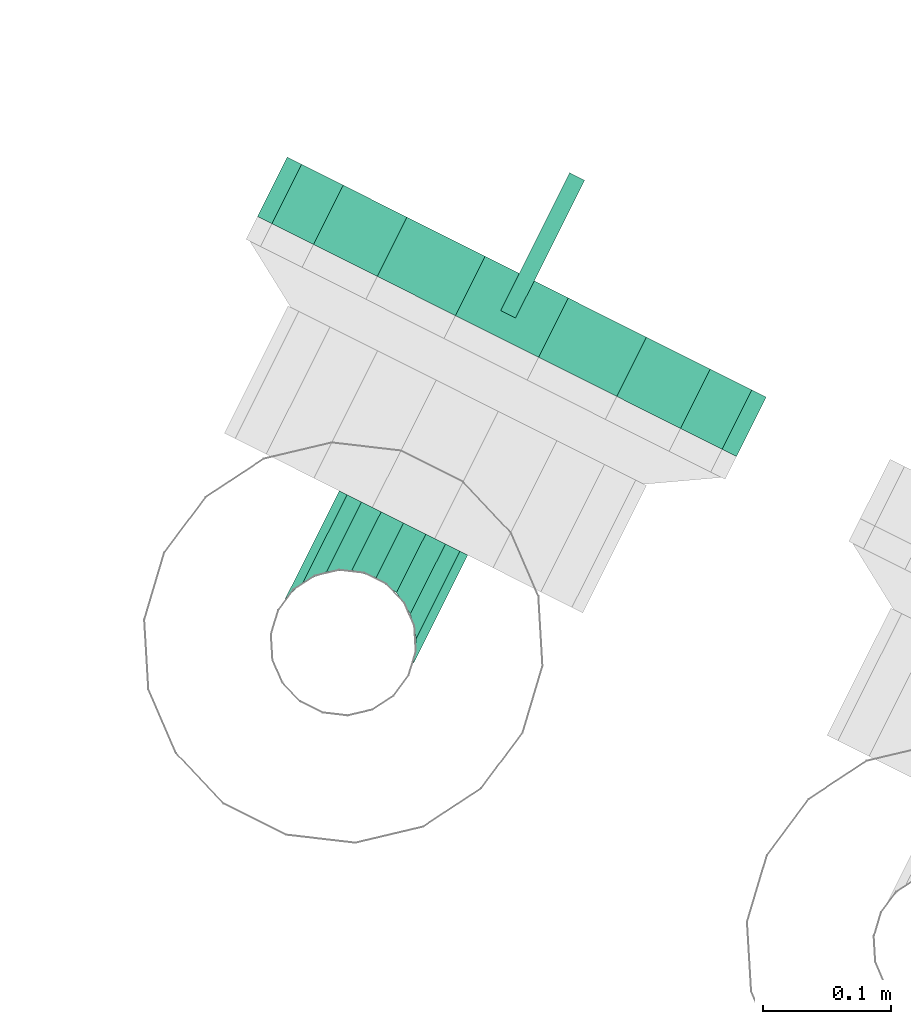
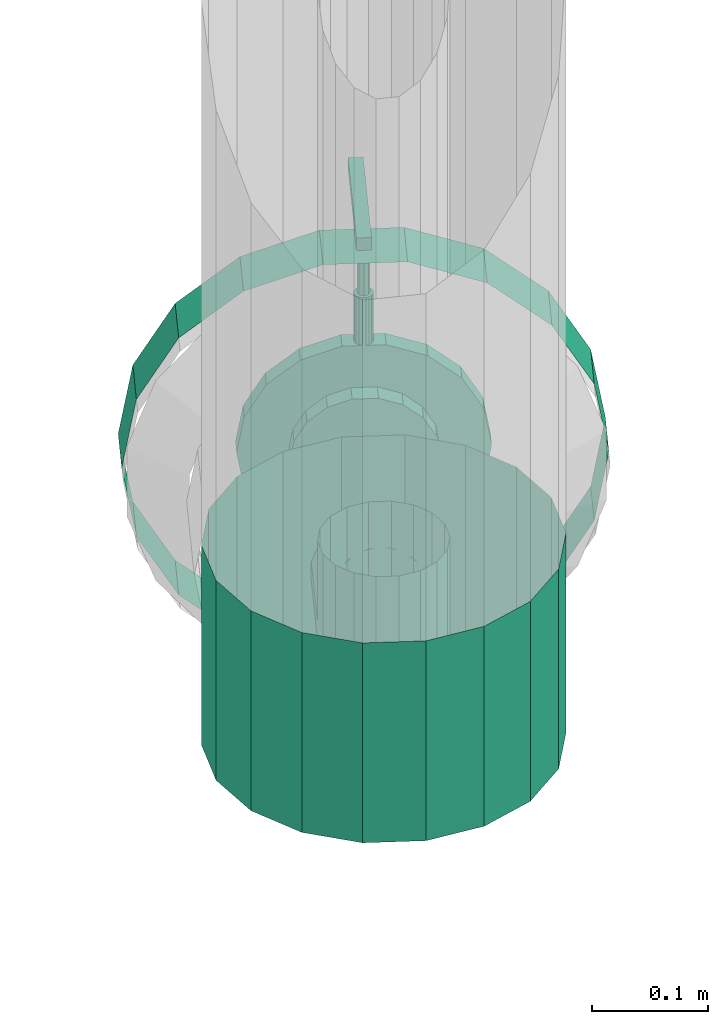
# One storey, part 38 of 206: 1 flow controller, 1 flow fitting.
"""IFC2X3 building model written with IfcOpenShell, lengths in metres."""

from ifc_helpers import new_model, si_unit, derived_unit, direction, frame, origin, place, context, subcontext, project, spatial, face_set, surface_model, source, transform, mapped, material, type_object, type_shapes, element, save


model = new_model("IFC2X3")

# Units and contexts
model_context = context("Model", 3, precision=5.2338327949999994e-05, world=origin(), true_north=direction((0.0, 1.0)))
body_context = subcontext(model_context, "Body", "Model", "MODEL_VIEW")
ifc_project = project(units=[si_unit("LENGTHUNIT", "METRE"), si_unit("AREAUNIT", "SQUARE_METRE"), si_unit("VOLUMEUNIT", "CUBIC_METRE"), si_unit("MASSUNIT", "GRAM", prefix="KILO"), si_unit("PLANEANGLEUNIT", "RADIAN"), derived_unit("THERMALTRANSMITTANCEUNIT", [(si_unit("MASSUNIT", "GRAM", prefix="KILO"), 1), (si_unit("THERMODYNAMICTEMPERATUREUNIT", "KELVIN"), -1), (si_unit("TIMEUNIT", "SECOND"), -3)])], contexts=[model_context])

# Site, building, storey
site_placement = place(None, frame((0.0, 0.0, 0.0), z_axis=(0.0, 0.0, 1.0), x_axis=(0.8939966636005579, -0.4480736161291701, 0.0)))
site = spatial("IfcSite", under=ifc_project, at=site_placement, Name="Default", CompositionType="ELEMENT")
building_placement = place(site_placement, origin())
building = spatial("IfcBuilding", under=site, at=building_placement, CompositionType="ELEMENT")
storey_placement = place(building_placement, origin())
storey = spatial("IfcBuildingStorey", under=building, at=storey_placement, Name="Erdgeschoss", CompositionType="ELEMENT", Elevation=0.0)

# Flow fitting
ifc_material = material(Name="IfcSurfaceStyle #9317")
distribution_element_type_1 = type_object("IfcDistributionElementType", Name="Abzweigstück 327061:Abzweigstück 327061", material=ifc_material)
shared_shape_1 = source(origin(), body_context, "Body", "SurfaceModel", [
    surface_model("IfcFaceBasedSurfaceModel", [(25.038549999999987, 0.612299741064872, 0.9494106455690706), (25.041996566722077, 0.5927532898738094, 0.9494106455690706), (25.041996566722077, 0.5927532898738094, 1.1594106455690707), (25.038549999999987, 0.6122997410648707, 1.1594106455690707), (25.051920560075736, 0.5755644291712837, 0.9494106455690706), (25.051920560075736, 0.5755644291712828, 1.1594106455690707), (25.067124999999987, 0.5628063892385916, 0.9494106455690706), (25.067124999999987, 0.5628063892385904, 1.1594106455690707), (25.085776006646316, 0.5560179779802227, 0.9494106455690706), (25.08577600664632, 0.5560179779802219, 1.1594106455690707), (25.105623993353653, 0.5560179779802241, 0.9494106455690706), (25.105623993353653, 0.5560179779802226, 1.1594106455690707), (25.12427499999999, 0.5628063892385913, 0.9494106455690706), (25.124274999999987, 0.5628063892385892, 1.1594106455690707), (25.139479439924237, 0.5755644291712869, 0.9494106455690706), (25.13947943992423, 0.5755644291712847, 1.1594106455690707), (25.1494034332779, 0.5927532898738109, 0.9494106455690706), (25.1494034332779, 0.5927532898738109, 1.1594106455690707), (25.152849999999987, 0.6122997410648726, 0.9494106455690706), (25.152849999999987, 0.6122997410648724, 1.1594106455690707), (25.1494034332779, 0.631846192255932, 0.9494106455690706), (25.1494034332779, 0.6318461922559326, 1.1594106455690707), (25.13947943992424, 0.6490350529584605, 0.9494106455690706), (25.13947943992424, 0.6490350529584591, 1.1594106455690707), (25.12427499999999, 0.6617930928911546, 0.9494106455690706), (25.124274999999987, 0.6617930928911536, 1.1594106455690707), (25.105623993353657, 0.6685815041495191, 0.9494106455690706), (25.105623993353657, 0.6685815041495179, 1.1594106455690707), (25.08577600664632, 0.6685815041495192, 0.9494106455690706), (25.085776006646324, 0.668581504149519, 1.1594106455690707), (25.06712499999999, 0.6617930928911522, 0.9494106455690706), (25.06712499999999, 0.661793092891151, 1.1594106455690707), (25.051920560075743, 0.6490350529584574, 0.9494106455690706), (25.051920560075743, 0.6490350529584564, 1.1594106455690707), (25.041996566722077, 0.631846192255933, 0.9494106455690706), (25.04199656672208, 0.6318461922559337, 1.1594106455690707), (25.09569999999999, 0.6694497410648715, 1.1115606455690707), (25.11524645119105, 0.6660031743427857, 1.1081140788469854), (25.11524645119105, 0.7172997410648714, 1.1081140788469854), (25.09569999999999, 0.7172997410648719, 1.1115606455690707), (25.132435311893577, 0.65607918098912, 1.0981900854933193), (25.13243531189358, 0.7172997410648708, 1.098190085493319), (25.14519335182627, 0.6408747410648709, 1.0829856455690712), (25.145193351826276, 0.7172997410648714, 1.0829856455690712), (25.151981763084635, 0.6222237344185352, 1.064334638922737), (25.151981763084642, 0.7172997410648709, 1.064334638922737), (25.15198176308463, 0.6222237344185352, 1.0444866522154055), (25.151981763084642, 0.7172997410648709, 1.0444866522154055), (25.14519335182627, 0.6408747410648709, 1.0258356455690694), (25.145193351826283, 0.7172997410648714, 1.0258356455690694), (25.132435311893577, 0.6560791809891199, 1.0106312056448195), (25.13243531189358, 0.7172997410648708, 1.0106312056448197), (25.11524645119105, 0.6660031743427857, 1.0007072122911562), (25.11524645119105, 0.7172997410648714, 1.0007072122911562), (25.09569999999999, 0.6694497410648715, 0.9972606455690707), (25.09569999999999, 0.7172997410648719, 0.9972606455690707), (25.07615354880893, 0.6660031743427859, 1.0007072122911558), (25.076153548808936, 0.7172997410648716, 1.0007072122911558), (25.058964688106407, 0.6560791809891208, 1.010631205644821), (25.058964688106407, 0.7172997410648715, 1.010631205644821), (25.046206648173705, 0.6408747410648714, 1.0258356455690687), (25.04620664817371, 0.7172997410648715, 1.025835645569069), (25.039418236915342, 0.6222237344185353, 1.0444866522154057), (25.039418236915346, 0.7172997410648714, 1.0444866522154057), (25.039418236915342, 0.6222237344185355, 1.0643346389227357), (25.039418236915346, 0.7172997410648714, 1.0643346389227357), (25.046206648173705, 0.6408747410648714, 1.0829856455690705), (25.04620664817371, 0.7172997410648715, 1.0829856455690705), (25.058964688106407, 0.6560791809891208, 1.0981900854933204), (25.058964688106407, 0.7172997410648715, 1.0981900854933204), (25.07615354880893, 0.6660031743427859, 1.1081140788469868), (25.076153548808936, 0.7172997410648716, 1.1081140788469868), (24.93854999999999, 0.6122997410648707, 0.9494106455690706), (24.94802730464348, 0.5585512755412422, 0.9494106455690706), (24.94802730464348, 0.5585512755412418, 1.1594106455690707), (24.93854999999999, 0.6122997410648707, 1.1594106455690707), (24.975316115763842, 0.5112856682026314, 0.9494106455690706), (24.97531611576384, 0.5112856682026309, 1.1594106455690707), (25.017124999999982, 0.4762038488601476, 0.9494106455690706), (25.017124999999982, 0.4762038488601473, 1.1594106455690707), (25.06841118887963, 0.45753720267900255, 0.9494106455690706), (25.06841118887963, 0.45753720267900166, 1.1594106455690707), (25.122988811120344, 0.4575372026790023, 0.9494106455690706), (25.12298881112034, 0.45753720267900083, 1.1594106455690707), (25.174274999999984, 0.47620384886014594, 0.9494106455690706), (25.174274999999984, 0.47620384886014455, 1.1594106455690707), (25.216083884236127, 0.5112856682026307, 0.9494106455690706), (25.216083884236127, 0.5112856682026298, 1.1594106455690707), (25.243372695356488, 0.5585512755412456, 0.9494106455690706), (25.243372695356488, 0.5585512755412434, 1.1594106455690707), (25.25284999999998, 0.6122997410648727, 0.9494106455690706), (25.25284999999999, 0.6122997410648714, 1.1594106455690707), (25.243372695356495, 0.6660482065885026, 0.9494106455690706), (25.2433726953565, 0.6660482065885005, 1.1594106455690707), (25.216083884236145, 0.7133138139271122, 0.9494106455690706), (25.216083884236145, 0.7133138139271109, 1.1594106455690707), (25.174274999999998, 0.7483956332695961, 0.9494106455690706), (25.174274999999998, 0.7483956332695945, 1.1594106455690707), (25.122988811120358, 0.7670622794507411, 0.9494106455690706), (25.122988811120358, 0.7670622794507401, 1.1594106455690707), (25.068411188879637, 0.7670622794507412, 0.9494106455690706), (25.068411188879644, 0.7670622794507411, 1.1594106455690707), (25.017124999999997, 0.7483956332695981, 0.9494106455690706), (25.017124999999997, 0.7483956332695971, 1.1594106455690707), (24.97531611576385, 0.7133138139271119, 0.9494106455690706), (24.975316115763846, 0.7133138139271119, 1.1594106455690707), (24.94802730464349, 0.6660482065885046, 0.9494106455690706), (24.94802730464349, 0.6660482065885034, 1.1594106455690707)], [face_set([[[0, 1, 2, 3]], [[1, 4, 5, 2]], [[4, 6, 7, 5]], [[6, 8, 9, 7]], [[8, 10, 11, 9]], [[10, 12, 13, 11]], [[12, 14, 15, 13]], [[14, 16, 17, 15]], [[16, 18, 19, 17]], [[18, 20, 21, 19]], [[20, 22, 23, 21]], [[22, 24, 25, 23]], [[24, 26, 27, 25]], [[26, 28, 29, 27]], [[28, 30, 31, 29]], [[30, 32, 33, 31]], [[32, 34, 35, 33]], [[34, 0, 3, 35]], [[36, 37, 38, 39]], [[37, 40, 41, 38]], [[40, 42, 43, 41]], [[42, 44, 45, 43]], [[44, 46, 47, 45]], [[46, 48, 49, 47]], [[48, 50, 51, 49]], [[50, 52, 53, 51]], [[52, 54, 55, 53]], [[54, 56, 57, 55]], [[56, 58, 59, 57]], [[58, 60, 61, 59]], [[60, 62, 63, 61]], [[62, 64, 65, 63]], [[64, 66, 67, 65]], [[66, 68, 69, 67]], [[68, 70, 71, 69]], [[70, 36, 39, 71]], [[72, 73, 74, 75]], [[73, 76, 77, 74]], [[76, 78, 79, 77]], [[78, 80, 81, 79]], [[80, 82, 83, 81]], [[82, 84, 85, 83]], [[84, 86, 87, 85]], [[86, 88, 89, 87]], [[88, 90, 91, 89]], [[90, 92, 93, 91]], [[92, 94, 95, 93]], [[94, 96, 97, 95]], [[96, 98, 99, 97]], [[98, 100, 101, 99]], [[100, 102, 103, 101]], [[102, 104, 105, 103]], [[104, 106, 107, 105]], [[106, 72, 75, 107]]])]),
])
type_shapes(distribution_element_type_1, [shared_shape_1])
flow_fitting_placement = place(storey_placement, origin())
element("IfcFlowFitting", 1, at=flow_fitting_placement, inside=storey, type_object=distribution_element_type_1, material=ifc_material, Name="Abzweigstück", ObjectType="Abzweigstück", context=body_context, shape_type="MappedRepresentation", body=[
    mapped(shared_shape_1, transform((0.0, 0.0, 0.0), scale=1.0)),
])

# Flow controller
distribution_element_type_2 = type_object("IfcDistributionElementType", Name="Zwischenflanschklappe 351404:Zwischenflanschklappe 351404", material=ifc_material)
shared_shape_2 = source(origin(), body_context, "Body", "SurfaceModel", [
    surface_model("IfcFaceBasedSurfaceModel", [(25.10224999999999, 1.0211727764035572, 1.2613106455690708), (25.10224999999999, 0.9003227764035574, 1.2613106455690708), (25.08914999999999, 0.9003227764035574, 1.2613106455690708), (25.08914999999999, 1.0211727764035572, 1.2613106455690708), (25.08914999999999, 0.9003227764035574, 1.2744106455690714), (25.08914999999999, 1.0211727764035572, 1.2744106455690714), (25.10224999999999, 0.9003227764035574, 1.2744106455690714), (25.10224999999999, 1.0211727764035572, 1.2744106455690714), (25.03019999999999, 0.932872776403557, 1.0544106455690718), (25.03415013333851, 0.932872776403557, 1.0320083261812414), (25.03415013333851, 0.9155394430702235, 1.0320083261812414), (25.03019999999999, 0.9155394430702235, 1.0544106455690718), (25.045524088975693, 0.932872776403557, 1.0123080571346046), (25.045524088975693, 0.9155394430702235, 1.0123080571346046), (25.06294999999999, 0.932872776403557, 0.9976859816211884), (25.06294999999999, 0.9155394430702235, 0.9976859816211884), (25.084326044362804, 0.932872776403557, 0.9899057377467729), (25.084326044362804, 0.9155394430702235, 0.9899057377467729), (25.107073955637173, 0.932872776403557, 0.9899057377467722), (25.107073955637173, 0.9155394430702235, 0.9899057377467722), (25.128449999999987, 0.932872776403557, 0.9976859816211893), (25.128449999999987, 0.9155394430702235, 0.9976859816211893), (25.145875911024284, 0.932872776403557, 1.0123080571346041), (25.145875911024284, 0.9155394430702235, 1.0123080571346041), (25.157249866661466, 0.932872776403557, 1.032008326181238), (25.157249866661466, 0.9155394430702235, 1.032008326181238), (25.16119999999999, 0.932872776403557, 1.0544106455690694), (25.16119999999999, 0.9155394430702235, 1.0544106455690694), (25.157249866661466, 0.932872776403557, 1.0768129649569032), (25.157249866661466, 0.9155394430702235, 1.0768129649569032), (25.145875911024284, 0.932872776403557, 1.096513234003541), (25.145875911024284, 0.9155394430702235, 1.096513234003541), (25.128449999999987, 0.932872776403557, 1.1111353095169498), (25.128449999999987, 0.9155394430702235, 1.1111353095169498), (25.107073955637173, 0.932872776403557, 1.1189155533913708), (25.107073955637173, 0.9155394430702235, 1.1189155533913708), (25.084326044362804, 0.932872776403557, 1.1189155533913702), (25.084326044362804, 0.9155394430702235, 1.1189155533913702), (25.06294999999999, 0.932872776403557, 1.1111353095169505), (25.06294999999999, 0.9155394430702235, 1.1111353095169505), (25.045524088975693, 0.932872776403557, 1.0965132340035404), (25.045524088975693, 0.9155394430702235, 1.0965132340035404), (25.03415013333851, 0.932872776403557, 1.0768129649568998), (25.03415013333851, 0.9155394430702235, 1.0768129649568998), (25.095699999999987, 0.9328727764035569, 1.0544106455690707), (25.095699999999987, 0.9155394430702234, 1.0544106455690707), (24.98569999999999, 0.9155394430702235, 1.0544106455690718), (24.99233381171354, 0.9155394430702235, 1.0167884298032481), (24.99233381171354, 0.8982061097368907, 1.0167884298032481), (24.98569999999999, 0.8982061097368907, 1.0544106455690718), (25.0114351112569, 0.9155394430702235, 0.9837040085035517), (25.0114351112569, 0.8982061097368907, 0.9837040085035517), (25.04069999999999, 0.9155394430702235, 0.9591478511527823), (25.04069999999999, 0.8982061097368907, 0.9591478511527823), (25.07659870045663, 0.9155394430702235, 0.9460817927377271), (25.07659870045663, 0.8982061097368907, 0.9460817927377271), (25.11480129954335, 0.9155394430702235, 0.946081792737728), (25.11480129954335, 0.8982061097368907, 0.946081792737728), (25.150699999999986, 0.9155394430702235, 0.959147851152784), (25.150699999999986, 0.8982061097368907, 0.959147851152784), (25.179964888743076, 0.9155394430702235, 0.9837040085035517), (25.179964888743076, 0.8982061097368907, 0.9837040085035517), (25.199066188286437, 0.9155394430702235, 1.016788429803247), (25.199066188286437, 0.8982061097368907, 1.016788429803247), (25.205699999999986, 0.9155394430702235, 1.0544106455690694), (25.205699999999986, 0.8982061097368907, 1.0544106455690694), (25.199066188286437, 0.9155394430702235, 1.0920328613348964), (25.199066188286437, 0.8982061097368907, 1.0920328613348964), (25.179964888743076, 0.9155394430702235, 1.1251172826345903), (25.179964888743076, 0.8982061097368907, 1.1251172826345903), (25.150699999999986, 0.9155394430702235, 1.14967343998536), (25.150699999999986, 0.8982061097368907, 1.14967343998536), (25.11480129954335, 0.9155394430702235, 1.1627394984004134), (25.11480129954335, 0.8982061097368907, 1.1627394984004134), (25.07659870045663, 0.9155394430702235, 1.1627394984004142), (25.07659870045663, 0.8982061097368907, 1.1627394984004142), (25.04069999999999, 0.9155394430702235, 1.1496734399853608), (25.04069999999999, 0.8982061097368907, 1.1496734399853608), (25.0114351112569, 0.9155394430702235, 1.1251172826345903), (25.0114351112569, 0.8982061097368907, 1.1251172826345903), (24.99233381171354, 0.9155394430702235, 1.092032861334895), (24.99233381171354, 0.8982061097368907, 1.092032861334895), (25.095699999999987, 0.8982061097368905, 1.0544106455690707), (25.03019999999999, 0.8982061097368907, 1.0544106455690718), (25.03415013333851, 0.8982061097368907, 1.0320083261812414), (25.03415013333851, 0.8808727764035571, 1.0320083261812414), (25.03019999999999, 0.8808727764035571, 1.0544106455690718), (25.045524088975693, 0.8982061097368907, 1.0123080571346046), (25.045524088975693, 0.8808727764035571, 1.0123080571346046), (25.06294999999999, 0.8982061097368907, 0.9976859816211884), (25.06294999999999, 0.8808727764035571, 0.9976859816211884), (25.084326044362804, 0.8982061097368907, 0.9899057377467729), (25.084326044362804, 0.8808727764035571, 0.9899057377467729), (25.107073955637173, 0.8982061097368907, 0.9899057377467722), (25.107073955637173, 0.8808727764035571, 0.9899057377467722), (25.128449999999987, 0.8982061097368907, 0.9976859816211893), (25.128449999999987, 0.8808727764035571, 0.9976859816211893), (25.145875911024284, 0.8982061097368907, 1.0123080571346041), (25.145875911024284, 0.8808727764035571, 1.0123080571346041), (25.157249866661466, 0.8982061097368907, 1.032008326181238), (25.157249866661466, 0.8808727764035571, 1.032008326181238), (25.16119999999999, 0.8982061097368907, 1.0544106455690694), (25.16119999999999, 0.8808727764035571, 1.0544106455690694), (25.157249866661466, 0.8982061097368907, 1.0768129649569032), (25.157249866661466, 0.8808727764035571, 1.0768129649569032), (25.145875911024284, 0.8982061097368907, 1.096513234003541), (25.145875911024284, 0.8808727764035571, 1.096513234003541), (25.128449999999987, 0.8982061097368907, 1.1111353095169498), (25.128449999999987, 0.8808727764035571, 1.1111353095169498), (25.107073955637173, 0.8982061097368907, 1.1189155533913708), (25.107073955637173, 0.8808727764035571, 1.1189155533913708), (25.084326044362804, 0.8982061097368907, 1.1189155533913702), (25.084326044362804, 0.8808727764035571, 1.1189155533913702), (25.06294999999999, 0.8982061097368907, 1.1111353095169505), (25.06294999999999, 0.8808727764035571, 1.1111353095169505), (25.045524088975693, 0.8982061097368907, 1.0965132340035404), (25.045524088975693, 0.8808727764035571, 1.0965132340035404), (25.03415013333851, 0.8982061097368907, 1.0768129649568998), (25.03415013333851, 0.8808727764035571, 1.0768129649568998), (25.095699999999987, 0.880872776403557, 1.0544106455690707), (25.087033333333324, 0.9068727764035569, 1.0544106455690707), (25.08755599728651, 0.9039086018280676, 1.0544106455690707), (25.08755599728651, 0.9039086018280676, 1.212860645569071), (25.087033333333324, 0.9068727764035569, 1.212860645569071), (25.089060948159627, 0.90130195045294, 1.0544106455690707), (25.089060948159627, 0.90130195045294, 1.212860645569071), (25.09136666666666, 0.8993672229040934, 1.0544106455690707), (25.09136666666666, 0.8993672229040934, 1.212860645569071), (25.094195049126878, 0.8983377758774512, 1.0544106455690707), (25.094195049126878, 0.8983377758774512, 1.212860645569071), (25.097204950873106, 0.8983377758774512, 1.0544106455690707), (25.097204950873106, 0.8983377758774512, 1.212860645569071), (25.100033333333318, 0.8993672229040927, 1.0544106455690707), (25.100033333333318, 0.8993672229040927, 1.212860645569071), (25.10233905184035, 0.9013019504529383, 1.0544106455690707), (25.10233905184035, 0.9013019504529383, 1.212860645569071), (25.103844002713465, 0.9039086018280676, 1.0544106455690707), (25.103844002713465, 0.9039086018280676, 1.212860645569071), (25.104366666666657, 0.9068727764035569, 1.0544106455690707), (25.104366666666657, 0.9068727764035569, 1.212860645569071), (25.103844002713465, 0.9098369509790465, 1.0544106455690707), (25.103844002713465, 0.9098369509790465, 1.212860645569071), (25.10233905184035, 0.9124436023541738, 1.0544106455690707), (25.10233905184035, 0.9124436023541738, 1.212860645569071), (25.100033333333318, 0.914378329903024, 1.0544106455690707), (25.100033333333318, 0.914378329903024, 1.212860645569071), (25.097204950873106, 0.915407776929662, 1.0544106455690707), (25.097204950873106, 0.915407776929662, 1.212860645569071), (25.094195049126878, 0.9154077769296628, 1.0544106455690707), (25.094195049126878, 0.9154077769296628, 1.212860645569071), (25.09136666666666, 0.9143783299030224, 1.0544106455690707), (25.09136666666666, 0.9143783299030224, 1.212860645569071), (25.089060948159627, 0.9124436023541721, 1.0544106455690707), (25.089060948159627, 0.9124436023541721, 1.212860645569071), (25.08755599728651, 0.9098369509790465, 1.0544106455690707), (25.08755599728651, 0.9098369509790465, 1.212860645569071), (25.095699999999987, 0.9068727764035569, 1.0544106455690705), (25.095699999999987, 0.9068727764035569, 1.212860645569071), (25.08998499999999, 0.9068727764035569, 1.212860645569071), (25.09165888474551, 0.9028316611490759, 1.212860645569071), (25.09165888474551, 0.9028316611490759, 1.2613106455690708), (25.08998499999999, 0.9068727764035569, 1.2613106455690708), (25.095699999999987, 0.901157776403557, 1.212860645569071), (25.095699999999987, 0.901157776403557, 1.2613106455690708), (25.09974111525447, 0.9028316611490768, 1.212860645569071), (25.09974111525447, 0.9028316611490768, 1.2613106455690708), (25.101414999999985, 0.9068727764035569, 1.212860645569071), (25.101414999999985, 0.9068727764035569, 1.2613106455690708), (25.09974111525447, 0.9109138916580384, 1.212860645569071), (25.09974111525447, 0.9109138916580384, 1.2613106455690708), (25.095699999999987, 0.9125877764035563, 1.212860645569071), (25.095699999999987, 0.9125877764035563, 1.2613106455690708), (25.09165888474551, 0.9109138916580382, 1.212860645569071), (25.09165888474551, 0.9109138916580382, 1.2613106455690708), (25.095699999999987, 0.9068727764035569, 1.2613106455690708), (24.885699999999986, 0.932872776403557, 1.0544106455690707), (24.898364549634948, 0.932872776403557, 0.9825864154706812), (24.898364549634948, 0.8808727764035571, 0.9825864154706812), (24.885699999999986, 0.8808727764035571, 1.0544106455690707), (24.934830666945, 0.932872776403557, 0.9194252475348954), (24.934830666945, 0.8808727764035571, 0.9194252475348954), (24.99069999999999, 0.932872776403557, 0.8725453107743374), (24.99069999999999, 0.8808727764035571, 0.8725453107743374), (25.059233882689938, 0.932872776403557, 0.8476010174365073), (25.059233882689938, 0.8808727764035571, 0.8476010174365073), (25.132166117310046, 0.932872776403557, 0.8476010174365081), (25.132166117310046, 0.8808727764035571, 0.8476010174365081), (25.20069999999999, 0.932872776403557, 0.872545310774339), (25.20069999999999, 0.8808727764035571, 0.872545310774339), (25.256569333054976, 0.932872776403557, 0.9194252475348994), (25.256569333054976, 0.8808727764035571, 0.9194252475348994), (25.29303545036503, 0.932872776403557, 0.9825864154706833), (25.29303545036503, 0.8808727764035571, 0.9825864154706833), (25.30569999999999, 0.932872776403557, 1.0544106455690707), (25.30569999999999, 0.8808727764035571, 1.0544106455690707), (25.29303545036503, 0.932872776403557, 1.1262348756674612), (25.29303545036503, 0.8808727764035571, 1.1262348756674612), (25.256569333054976, 0.932872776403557, 1.1893960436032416), (25.256569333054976, 0.8808727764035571, 1.1893960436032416), (25.20069999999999, 0.932872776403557, 1.2362759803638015), (25.20069999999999, 0.8808727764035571, 1.2362759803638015), (25.132166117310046, 0.932872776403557, 1.2612202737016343), (25.132166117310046, 0.8808727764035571, 1.2612202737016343), (25.059233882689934, 0.932872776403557, 1.2612202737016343), (25.059233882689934, 0.8808727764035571, 1.2612202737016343), (24.99069999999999, 0.932872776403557, 1.236275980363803), (24.99069999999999, 0.8808727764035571, 1.236275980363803), (24.934830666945, 0.932872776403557, 1.1893960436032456), (24.934830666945, 0.8808727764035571, 1.1893960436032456), (24.898364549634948, 0.932872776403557, 1.1262348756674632), (24.898364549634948, 0.8808727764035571, 1.1262348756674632)], [face_set([[[0, 1, 2, 3]], [[3, 2, 4, 5]], [[5, 4, 6, 7]], [[7, 6, 1, 0]], [[0, 3, 5, 7]], [[6, 4, 2, 1]], [[8, 9, 10, 11]], [[9, 12, 13, 10]], [[12, 14, 15, 13]], [[14, 16, 17, 15]], [[16, 18, 19, 17]], [[18, 20, 21, 19]], [[20, 22, 23, 21]], [[22, 24, 25, 23]], [[24, 26, 27, 25]], [[26, 28, 29, 27]], [[28, 30, 31, 29]], [[30, 32, 33, 31]], [[32, 34, 35, 33]], [[34, 36, 37, 35]], [[36, 38, 39, 37]], [[38, 40, 41, 39]], [[40, 42, 43, 41]], [[42, 8, 11, 43]], [[44, 9, 8]], [[44, 12, 9]], [[44, 14, 12]], [[44, 16, 14]], [[44, 18, 16]], [[44, 20, 18]], [[44, 22, 20]], [[44, 24, 22]], [[44, 26, 24]], [[44, 28, 26]], [[44, 30, 28]], [[44, 32, 30]], [[44, 34, 32]], [[44, 36, 34]], [[44, 38, 36]], [[44, 40, 38]], [[44, 42, 40]], [[44, 8, 42]], [[45, 43, 11]], [[45, 41, 43]], [[45, 39, 41]], [[45, 37, 39]], [[45, 35, 37]], [[45, 33, 35]], [[45, 31, 33]], [[45, 29, 31]], [[45, 27, 29]], [[45, 25, 27]], [[45, 23, 25]], [[45, 21, 23]], [[45, 19, 21]], [[45, 17, 19]], [[45, 15, 17]], [[45, 13, 15]], [[45, 10, 13]], [[45, 11, 10]], [[46, 47, 48, 49]], [[47, 50, 51, 48]], [[50, 52, 53, 51]], [[52, 54, 55, 53]], [[54, 56, 57, 55]], [[56, 58, 59, 57]], [[58, 60, 61, 59]], [[60, 62, 63, 61]], [[62, 64, 65, 63]], [[64, 66, 67, 65]], [[66, 68, 69, 67]], [[68, 70, 71, 69]], [[70, 72, 73, 71]], [[72, 74, 75, 73]], [[74, 76, 77, 75]], [[76, 78, 79, 77]], [[78, 80, 81, 79]], [[80, 46, 49, 81]], [[45, 47, 46]], [[45, 50, 47]], [[45, 52, 50]], [[45, 54, 52]], [[45, 56, 54]], [[45, 58, 56]], [[45, 60, 58]], [[45, 62, 60]], [[45, 64, 62]], [[45, 66, 64]], [[45, 68, 66]], [[45, 70, 68]], [[45, 72, 70]], [[45, 74, 72]], [[45, 76, 74]], [[45, 78, 76]], [[45, 80, 78]], [[45, 46, 80]], [[82, 81, 49]], [[82, 79, 81]], [[82, 77, 79]], [[82, 75, 77]], [[82, 73, 75]], [[82, 71, 73]], [[82, 69, 71]], [[82, 67, 69]], [[82, 65, 67]], [[82, 63, 65]], [[82, 61, 63]], [[82, 59, 61]], [[82, 57, 59]], [[82, 55, 57]], [[82, 53, 55]], [[82, 51, 53]], [[82, 48, 51]], [[82, 49, 48]], [[83, 84, 85, 86]], [[84, 87, 88, 85]], [[87, 89, 90, 88]], [[89, 91, 92, 90]], [[91, 93, 94, 92]], [[93, 95, 96, 94]], [[95, 97, 98, 96]], [[97, 99, 100, 98]], [[99, 101, 102, 100]], [[101, 103, 104, 102]], [[103, 105, 106, 104]], [[105, 107, 108, 106]], [[107, 109, 110, 108]], [[109, 111, 112, 110]], [[111, 113, 114, 112]], [[113, 115, 116, 114]], [[115, 117, 118, 116]], [[117, 83, 86, 118]], [[82, 84, 83]], [[82, 87, 84]], [[82, 89, 87]], [[82, 91, 89]], [[82, 93, 91]], [[82, 95, 93]], [[82, 97, 95]], [[82, 99, 97]], [[82, 101, 99]], [[82, 103, 101]], [[82, 105, 103]], [[82, 107, 105]], [[82, 109, 107]], [[82, 111, 109]], [[82, 113, 111]], [[82, 115, 113]], [[82, 117, 115]], [[82, 83, 117]], [[119, 118, 86]], [[119, 116, 118]], [[119, 114, 116]], [[119, 112, 114]], [[119, 110, 112]], [[119, 108, 110]], [[119, 106, 108]], [[119, 104, 106]], [[119, 102, 104]], [[119, 100, 102]], [[119, 98, 100]], [[119, 96, 98]], [[119, 94, 96]], [[119, 92, 94]], [[119, 90, 92]], [[119, 88, 90]], [[119, 85, 88]], [[119, 86, 85]], [[120, 121, 122, 123]], [[121, 124, 125, 122]], [[124, 126, 127, 125]], [[126, 128, 129, 127]], [[128, 130, 131, 129]], [[130, 132, 133, 131]], [[132, 134, 135, 133]], [[134, 136, 137, 135]], [[136, 138, 139, 137]], [[138, 140, 141, 139]], [[140, 142, 143, 141]], [[142, 144, 145, 143]], [[144, 146, 147, 145]], [[146, 148, 149, 147]], [[148, 150, 151, 149]], [[150, 152, 153, 151]], [[152, 154, 155, 153]], [[154, 120, 123, 155]], [[156, 121, 120]], [[156, 124, 121]], [[156, 126, 124]], [[156, 128, 126]], [[156, 130, 128]], [[156, 132, 130]], [[156, 134, 132]], [[156, 136, 134]], [[156, 138, 136]], [[156, 140, 138]], [[156, 142, 140]], [[156, 144, 142]], [[156, 146, 144]], [[156, 148, 146]], [[156, 150, 148]], [[156, 152, 150]], [[156, 154, 152]], [[156, 120, 154]], [[157, 155, 123]], [[157, 153, 155]], [[157, 151, 153]], [[157, 149, 151]], [[157, 147, 149]], [[157, 145, 147]], [[157, 143, 145]], [[157, 141, 143]], [[157, 139, 141]], [[157, 137, 139]], [[157, 135, 137]], [[157, 133, 135]], [[157, 131, 133]], [[157, 129, 131]], [[157, 127, 129]], [[157, 125, 127]], [[157, 122, 125]], [[157, 123, 122]], [[158, 159, 160, 161]], [[159, 162, 163, 160]], [[162, 164, 165, 163]], [[164, 166, 167, 165]], [[166, 168, 169, 167]], [[168, 170, 171, 169]], [[170, 172, 173, 171]], [[172, 158, 161, 173]], [[174, 173, 161]], [[174, 171, 173]], [[174, 169, 171]], [[174, 167, 169]], [[174, 165, 167]], [[174, 163, 165]], [[174, 160, 163]], [[174, 161, 160]], [[175, 176, 177, 178]], [[176, 179, 180, 177]], [[179, 181, 182, 180]], [[181, 183, 184, 182]], [[183, 185, 186, 184]], [[185, 187, 188, 186]], [[187, 189, 190, 188]], [[189, 191, 192, 190]], [[191, 193, 194, 192]], [[193, 195, 196, 194]], [[195, 197, 198, 196]], [[197, 199, 200, 198]], [[199, 201, 202, 200]], [[201, 203, 204, 202]], [[203, 205, 206, 204]], [[205, 207, 208, 206]], [[207, 209, 210, 208]], [[209, 175, 178, 210]]])]),
])
type_shapes(distribution_element_type_2, [shared_shape_2])
flow_controller_placement = place(storey_placement, origin())
element("IfcFlowController", 2, at=flow_controller_placement, inside=storey, type_object=distribution_element_type_2, material=ifc_material, Name="Zwischenflanschklappe", ObjectType="Zwischenflanschklappe", context=body_context, shape_type="MappedRepresentation", body=[
    mapped(shared_shape_2, transform((0.0, 0.0, 0.0), scale=1.0)),
])

save(model, "model.ifc")
